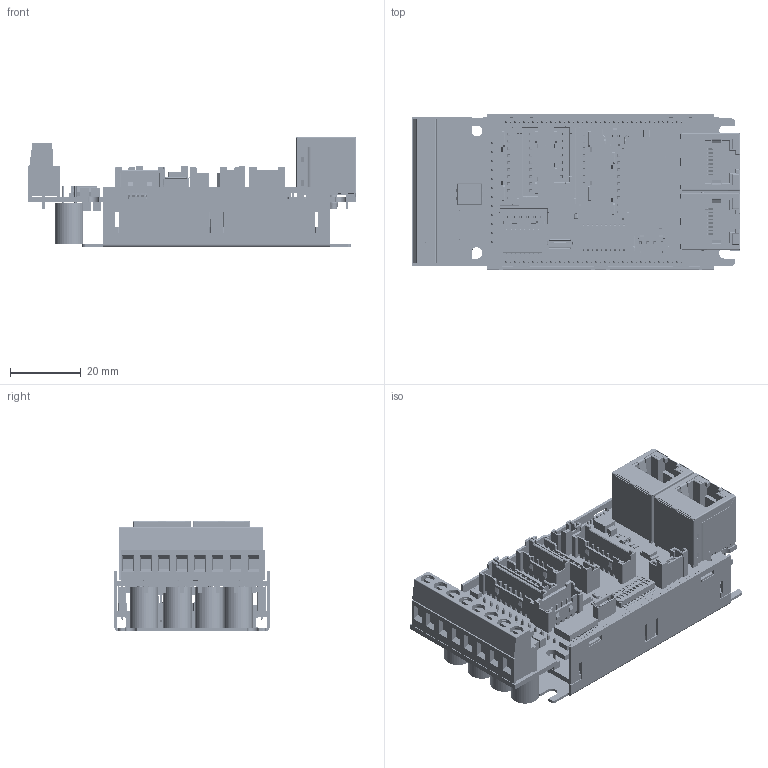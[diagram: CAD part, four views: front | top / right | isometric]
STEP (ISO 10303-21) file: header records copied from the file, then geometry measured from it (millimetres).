
FILE_DESCRIPTION (( 'STEP AP214' ), '1' );
FILE_NAME ('P022.710.0084.PCB.10E-XZ-CAT.STEP', '2025-01-15T15:27:42', ( '' ), ( '' ), 'SwSTEP 2.0', 'SolidWorks 2017', '' );
FILE_SCHEMA (( 'AUTOMOTIVE_DESIGN' ));
Length unit declared in the file: millimetre
Products named in the file (1): P022.710.0084.PCB.10E-XZ-CAT
Bounding box: 92.82 x 43.8 x 31.26 mm (x, y, z)
Volume: 35888.1 mm3; surface area: 64989.9 mm2
Topology: 749 solids, 749 shells, 20830 faces, 54084 edges, 35269 vertices
Faces by surface type: plane 16280, cylinder 3411, bspline 1125, torus 8, cone 6
Entity records: 910687 total; most frequent: CARTESIAN_POINT 166742, ORIENTED_EDGE 107984, DIRECTION 96922, EDGE_CURVE 53992, LINE 44764, VECTOR 44764, VERTEX_POINT 35269, AXIS2_PLACEMENT_3D 26079
